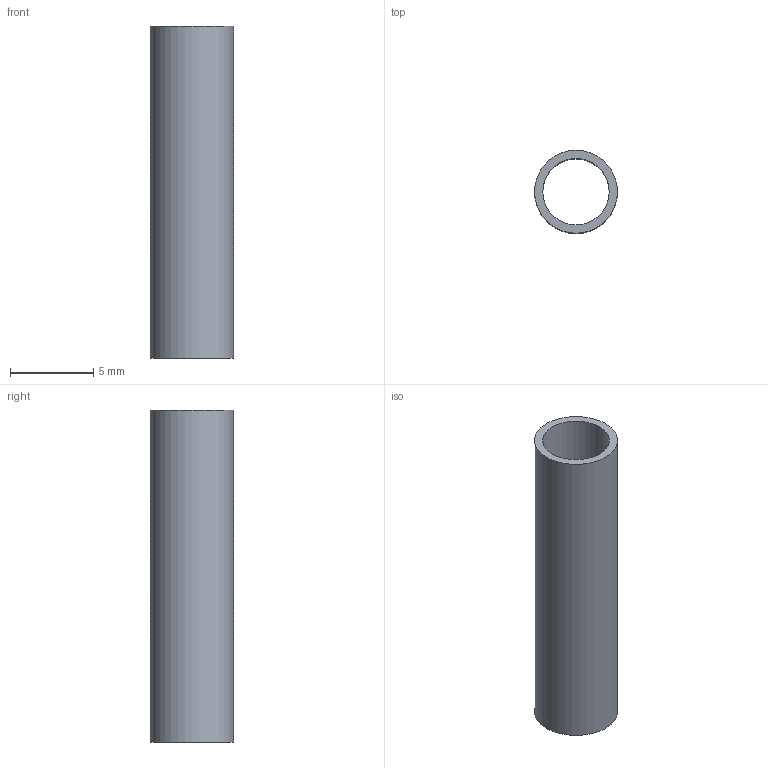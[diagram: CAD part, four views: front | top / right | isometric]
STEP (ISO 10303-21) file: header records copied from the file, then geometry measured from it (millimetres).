
FILE_DESCRIPTION(('Open CASCADE Model'),'2;1');
FILE_NAME('Open CASCADE Shape Model','2026-10-28T05:15:08',('Author'),( 'Open CASCADE'),'Open CASCADE STEP processor 7.8','Open CASCADE 7.8' ,'Unknown');
FILE_SCHEMA(('AUTOMOTIVE_DESIGN { 1 0 10303 214 1 1 1 1 }'));
Length unit declared in the file: millimetre
Products named in the file (1): Open CASCADE STEP translator 7.8 3
Bounding box: 5 x 5 x 20 mm (x, y, z)
Volume: 141.4 mm3; surface area: 579.6 mm2
Topology: 1 solids, 1 shells, 4 faces, 6 edges, 4 vertices
Faces by surface type: cylinder 2, plane 2
Full cylindrical faces by diameter (mm): 4 x1, 5 x1
Entity records: 186 total; most frequent: DIRECTION 32, CARTESIAN_POINT 27, ORIENTED_EDGE 12, PCURVE 12, DEFINITIONAL_REPRESENTATION 12, LINE 10, VECTOR 10, AXIS2_PLACEMENT_3D 9
